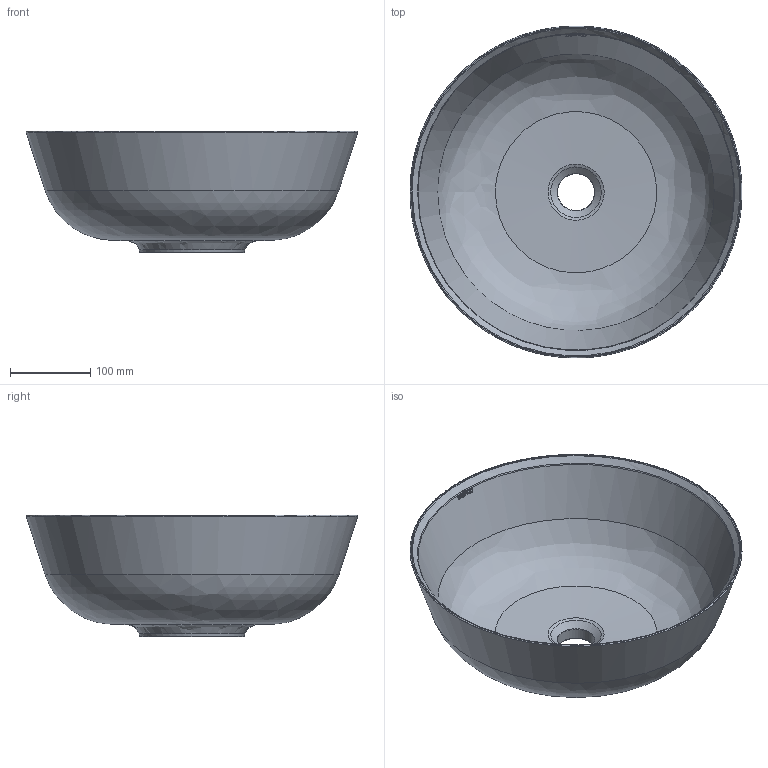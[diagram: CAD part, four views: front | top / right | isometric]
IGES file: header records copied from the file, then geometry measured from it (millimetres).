
Global section: file name: D:\Renovando Conceptos\Trabajos Varios\BathCo\47 Biblioteca Lavabos 3D\6042_Paran; native system: Rhinoceros ( May  7 2021 ); preprocessor: Trout Lake IGES 012 May  7 2021; date: 221219.130757; units: millimetre
Bounding box: 414.15 x 414.06 x 152 mm (x, y, z)
Surface area: 452727.3 mm2 (no closed solid volume)
Topology: 0 solids, 0 shells, 108 faces, 538 edges, 507 vertices
Faces by surface type: bspline 108
